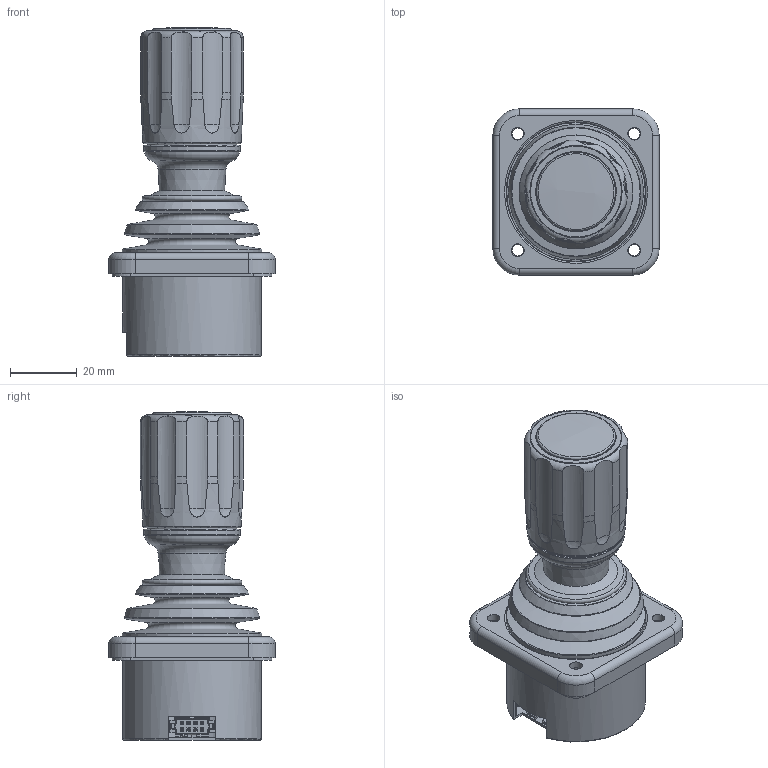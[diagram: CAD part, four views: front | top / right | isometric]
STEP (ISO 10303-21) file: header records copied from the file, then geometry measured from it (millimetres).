
FILE_DESCRIPTION(/* description */ (''),/* implementation_level */ '2;1');
FILE_NAME(/* name */ 'S:\Entwicklung\01_CAD-Daten\01_AIDATA-GT\1_1_Joysticks\SK315\Zusammenstellungen\Step\315-0164.stp',/* time_stamp */ '2024-01-31T10:11:43+01:00',/* author */ ('mk'),/* organization */ (''),/* preprocessor_version */ 'ST-DEVELOPER v18.1',/* originating_system */ 'Autodesk Inventor 2021',/* authorisation */ '');
FILE_SCHEMA (('AUTOMOTIVE_DESIGN { 1 0 10303 214 3 1 1 }'));
Products named in the file (1): 315-0164
Bounding box: 50 x 50 x 98.84 mm (x, y, z)
Volume: 46138 mm3; surface area: 53895.4 mm2
Topology: 7 solids, 7 shells, 3422 faces, 9558 edges, 6243 vertices
Faces by surface type: plane 2900, cylinder 383, cone 52, torus 47, sphere 26, bspline 14
Full cylindrical faces by diameter (mm): 0.05 x17, 0.304 x19, 0.8 x6, 1.5 x1, 2 x10, 2.5 x1, 3 x4, 3.1 x4, 3.5 x4, 3.8 x8, 4 x5, 4.1 x3, 4.5 x8, 5.6 x1, 6 x1, 9 x2, 10 x1, 12 x1, 13 x1, 16 x1, 17 x1, 18 x1, 19.7 x1, 20 x3, 20.917 x1, 22 x2, 22.6 x1, 23.5 x1, 23.7 x1, 24 x1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
Entity records: 111853 total; most frequent: CARTESIAN_POINT 20570, ORIENTED_EDGE 19090, DIRECTION 17329, EDGE_CURVE 9545, LINE 8327, VECTOR 8327, VERTEX_POINT 6243, AXIS2_PLACEMENT_3D 4501
